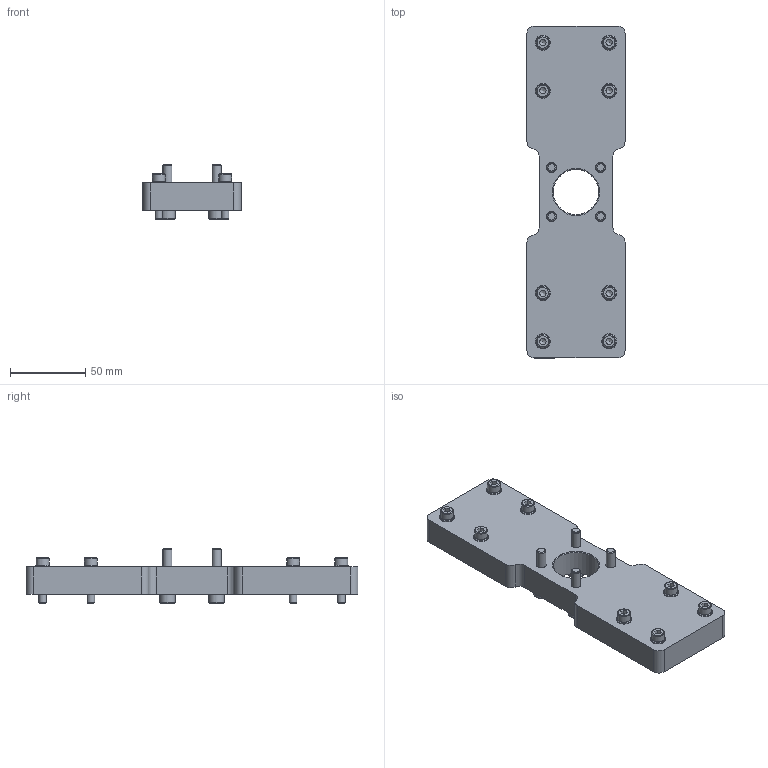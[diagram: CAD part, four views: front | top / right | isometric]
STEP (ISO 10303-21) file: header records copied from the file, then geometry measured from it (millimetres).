
FILE_DESCRIPTION(/* description */ ('Crossbar ETH032 with direct Mounting'),/* implementation_level */ '2;1');
FILE_NAME(/* name */ 'D:\InventorWorkspace2017\CAD\Projekte_EDEM\HLR\Zubehörteile\0242.035-01.stp',/* time_stamp */ '2019-02-13T11:52:52+01:00',/* author */ ('544672'),/* organization */ (''),/* preprocessor_version */ 'ST-DEVELOPER v16.5',/* originating_system */ 'Autodesk Inventor 2017',/* authorisation */ '');
FILE_SCHEMA (('AUTOMOTIVE_DESIGN { 1 0 10303 214 3 1 1 }'));
Length unit declared in the file: millimetre
Products named in the file (5): 0242.035-01; 0241.027; 135-721033; 135-728812; 135-721046
Assembly tree (21 placements, depth 2):
  0242.035-01
    0241.027
    135-721033  x8
    135-728812  x8
    135-721046  x4
Bounding box: 65 x 220 x 36 mm (x, y, z)
Volume: 233049 mm3; surface area: 51023.9 mm2
Topology: 21 solids, 21 shells, 257 faces, 563 edges, 360 vertices
Faces by surface type: plane 134, cylinder 65, cone 34, torus 24
Full cylindrical faces by diameter (mm): 5 x8, 5.3 x8, 5.5 x8, 6 x4, 6.6 x4, 8.5 x8, 10 x12, 30.1 x1
Entity records: 2292 total; most frequent: DIRECTION 398, CARTESIAN_POINT 376, ORIENTED_EDGE 286, AXIS2_PLACEMENT_3D 169, EDGE_CURVE 143, EDGE_LOOP 132, VERTEX_POINT 111, FACE_OUTER_BOUND 72
